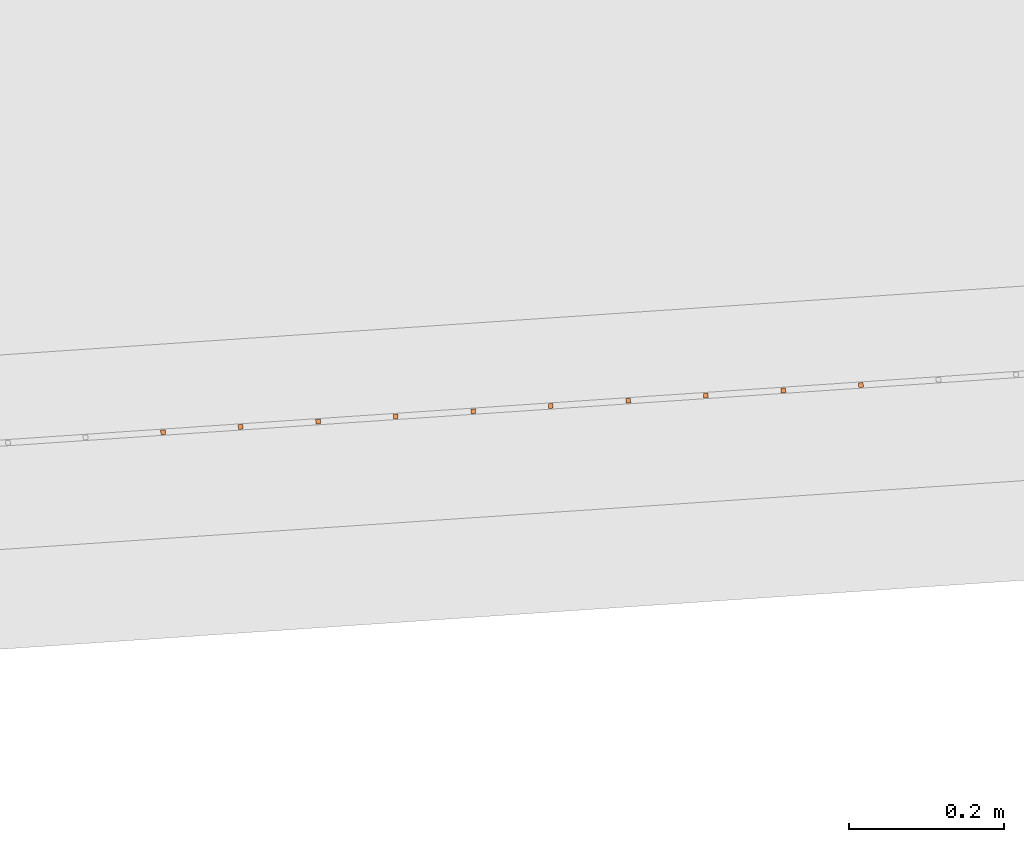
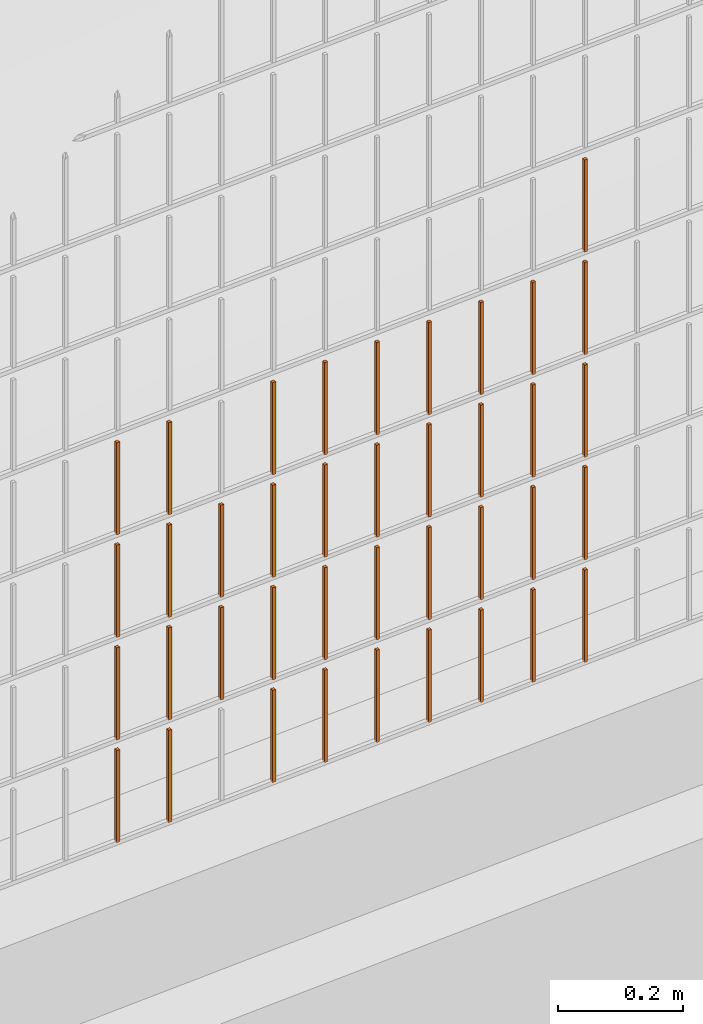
# One storey, part 157 of 1809: 39 proxies, 1 element without a shape of its own.
"""IFC2X3 building model written with IfcOpenShell, lengths in millimetres."""

import ifcopenshell
import ifcopenshell.guid

model = None  # the IFC model being written
_history = None  # IfcOwnerHistory: only IFC2X3 demands one
_inside = {}  # id of a spatial element -> (the spatial element, [elements in it])
_under = {}  # id of a project, library or spatial element -> (it, [spatial elements below it])
_declared = {}  # id of a project -> (the project, [libraries it declares])
_typed = {}  # id of a type object -> (the type object, [elements of that type])
_made_of = {}  # id of a material, layer set ... -> (it, [elements and type objects made of it])


def new_model(schema):
    """Start an empty IFC model of exactly this schema.

    Asked for "IFC4X3", IfcOpenShell would pick the latest addendum, in which some entities
    have other attributes; the version numbers below select the first issue.
    IFC2X3 requires an IfcOwnerHistory on every rooted entity: one is made here for all.
    """
    global model, _history
    if schema == "IFC4X3":
        model = ifcopenshell.file(schema_version=(4, 3, 0, 0))
    else:
        model = ifcopenshell.file(schema=schema)
    _inside.clear()
    _under.clear()
    _declared.clear()
    _typed.clear()
    _made_of.clear()
    _history = None
    if model.schema == "IFC2X3":
        org = make("IfcOrganization", Name="unknown")
        user = make(
            "IfcPersonAndOrganization",
            ThePerson=make("IfcPerson", FamilyName="unknown"),
            TheOrganization=org,
        )
        app = make(
            "IfcApplication",
            ApplicationDeveloper=org,
            Version="unknown",
            ApplicationFullName="unknown",
            ApplicationIdentifier="unknown",
        )
        _history = make(
            "IfcOwnerHistory",
            OwningUser=user,
            OwningApplication=app,
            ChangeAction="ADDED",
            CreationDate=0,
        )
    return model


def make(cls, **values):
    """One entity of the class cls with the attributes given. An attribute that is None is left unset."""
    return model.create_entity(
        cls, **{name: value for name, value in values.items() if value is not None}
    )


def entity(cls, *values):
    """Any entity or typed value of the class cls, its attributes in the order of the schema. None: left unset."""
    e = model.create_entity(cls)
    for i, value in enumerate(values):
        if value is not None:
            e[i] = value
    return e


def rooted(cls, **values):
    """An entity with a GlobalId (a new one), such as an element, a storey or a relation."""
    return make(cls, GlobalId=ifcopenshell.guid.new(), OwnerHistory=_history, **values)


def si_unit(unit_type, name, prefix=None):
    """IfcSIUnit, for example si_unit("LENGTHUNIT", "METRE", prefix="MILLI")."""
    return make("IfcSIUnit", UnitType=unit_type, Prefix=prefix, Name=name)


def converted_unit(unit_type, name, factor, base, dimensions=None, offset=None):
    """IfcConversionBasedUnit, such as the inch: factor (a typed value) times the base unit."""
    return make(
        "IfcConversionBasedUnit"
        if offset is None
        else "IfcConversionBasedUnitWithOffset",
        ConversionOffset=offset,
        Dimensions=None
        if dimensions is None
        else entity("IfcDimensionalExponents", *dimensions),
        UnitType=unit_type,
        Name=name,
        ConversionFactor=make(
            "IfcMeasureWithUnit", ValueComponent=factor, UnitComponent=base
        ),
    )


def derived_unit(unit_type, elements):
    """IfcDerivedUnit: a product of units, each with its exponent."""
    return make(
        "IfcDerivedUnit",
        Elements=[
            make("IfcDerivedUnitElement", Unit=unit, Exponent=power)
            for unit, power in elements
        ],
        UnitType=unit_type,
    )


def money_unit(currency):
    """IfcMonetaryUnit."""
    return make("IfcMonetaryUnit", Currency=currency)


def assignment(units):
    """IfcUnitAssignment: the units of a project."""
    return None if units is None else make("IfcUnitAssignment", Units=units)


def point(xyz):
    """IfcCartesianPoint."""
    return None if xyz is None else make("IfcCartesianPoint", Coordinates=xyz)


def direction(xyz):
    """IfcDirection."""
    return None if xyz is None else make("IfcDirection", DirectionRatios=xyz)


def frame(location, z_axis=None, x_axis=None):
    """IfcAxis2Placement3D, a coordinate frame: its origin and axes. An axis left out is left unset."""
    return make(
        "IfcAxis2Placement3D",
        Location=point(location),
        Axis=direction(z_axis),
        RefDirection=direction(x_axis),
    )


def origin_with_axes():
    """The frame at (0, 0, 0) with the z axis (0, 0, 1) and the x axis (1, 0, 0) written out."""
    return frame((0.0, 0.0, 0.0), z_axis=(0.0, 0.0, 1.0), x_axis=(1.0, 0.0, 0.0))


def place(relative_to, where):
    """IfcLocalPlacement: puts the frame where relative to a parent placement (None: the world)."""
    return make(
        "IfcLocalPlacement", PlacementRelTo=relative_to, RelativePlacement=where
    )


def context(
    kind, dimensions, precision=None, world=None, true_north=None, identifier=None
):
    """IfcGeometricRepresentationContext, for example the 3D "Model" context."""
    return make(
        "IfcGeometricRepresentationContext",
        ContextIdentifier=identifier,
        ContextType=kind,
        CoordinateSpaceDimension=dimensions,
        Precision=precision,
        WorldCoordinateSystem=world,
        TrueNorth=true_north,
    )


def subcontext(parent, identifier, kind, view, scale=None):
    """IfcGeometricRepresentationSubContext, for example "Body" below "Model"."""
    return make(
        "IfcGeometricRepresentationSubContext",
        ContextIdentifier=identifier,
        ContextType=kind,
        ParentContext=parent,
        TargetScale=scale,
        TargetView=view,
    )


def project(units=None, contexts=None):
    """IfcProject with its units and contexts."""
    return rooted(
        "IfcProject",
        Name="project",
        RepresentationContexts=contexts,
        UnitsInContext=assignment(units),
    )


def spatial(cls, under=None, at=None, **own):
    """A site, building, storey or space (cls), placed at a placement, below another one or the project."""
    s = rooted(cls, ObjectPlacement=at, **own)
    if under is not None:
        _under.setdefault(under.id(), (under, []))[1].append(s)
    return s


def faces_of(points, faces, orient=None, outer=None):
    """IfcFace entities. A face is a list of loops; a loop is a list of indices into points, from 0.

    orient and outer hold one flag for each loop. By default every Orientation is true, the
    first loop of a face is its IfcFaceOuterBound and the others are IfcFaceBound.
    """
    made = []
    for i, loops in enumerate(faces):
        bounds = []
        for j, loop in enumerate(loops):
            is_outer = j == 0 if outer is None else outer[i][j]
            bounds.append(
                make(
                    "IfcFaceOuterBound" if is_outer else "IfcFaceBound",
                    Bound=make("IfcPolyLoop", Polygon=[points[k] for k in loop]),
                    Orientation=True if orient is None else orient[i][j],
                )
            )
        made.append(make("IfcFace", Bounds=bounds))
    return made


def faceted_brep(points, faces, orient=None, outer=None, voids=None):
    """IfcFacetedBrep: a solid bounded by flat faces; with voids (closed shells), ...WithVoids."""
    shared = [point(p) for p in points]
    hull = make("IfcClosedShell", CfsFaces=faces_of(shared, faces, orient, outer))
    if voids is None:
        return make("IfcFacetedBrep", Outer=hull)
    return make(
        "IfcFacetedBrepWithVoids",
        Outer=hull,
        Voids=[
            make(cls, CfsFaces=faces_of(shared, fs, o, b)) for cls, fs, o, b in voids
        ],
    )


def shape(context_of_items, identifier, shape_type, items):
    """IfcShapeRepresentation: the items that make up one representation, for example the "Body"."""
    return make(
        "IfcShapeRepresentation",
        ContextOfItems=context_of_items,
        RepresentationIdentifier=identifier,
        RepresentationType=shape_type,
        Items=items,
    )


def source(mapping_origin, context_of_items, identifier, shape_type, items):
    """IfcRepresentationMap: a shape defined once, which mapped items show again and again."""
    return make(
        "IfcRepresentationMap",
        MappingOrigin=mapping_origin,
        MappedRepresentation=shape(context_of_items, identifier, shape_type, items),
    )


def transform(
    local_origin,
    x_axis=None,
    y_axis=None,
    z_axis=None,
    scale=None,
    scale2=None,
    scale3=None,
    uniform=True,
):
    """IfcCartesianTransformationOperator3D, or its non-uniform kind. x_axis, y_axis, z_axis: its Axis1, 2, 3."""
    if uniform:
        return make(
            "IfcCartesianTransformationOperator3D",
            Axis1=direction(x_axis),
            Axis2=direction(y_axis),
            LocalOrigin=point(local_origin),
            Scale=scale,
            Axis3=direction(z_axis),
        )
    return make(
        "IfcCartesianTransformationOperator3DnonUniform",
        Axis1=direction(x_axis),
        Axis2=direction(y_axis),
        LocalOrigin=point(local_origin),
        Scale=scale,
        Axis3=direction(z_axis),
        Scale2=scale2,
        Scale3=scale3,
    )


def mapped(mapping_source, mapping_target):
    """IfcMappedItem: shows the shape of a source again, moved by a transform."""
    return make(
        "IfcMappedItem", MappingSource=mapping_source, MappingTarget=mapping_target
    )


def material(Name=None, Category=None):
    """IfcMaterial."""
    return make("IfcMaterial", Name=Name, Category=Category)


def made_of(thing, what):
    """Note that an element or type object is made of a material, layer set ...; save() writes the relation."""
    if what is not None:
        _made_of.setdefault(what.id(), (what, []))[1].append(thing)
    return thing


def type_object(cls, material=None, **own):
    """A type object (cls), such as IfcWallType, which elements share."""
    return made_of(rooted(cls, **own), material)


def element(
    cls,
    number,
    at=None,
    inside=None,
    cuts=None,
    type_object=None,
    material=None,
    context=None,
    identifier="Body",
    shape_type=None,
    held_by="IfcProductDefinitionShape",
    body=None,
    shapes=None,
    **own,
):
    """One element of the class cls, such as IfcWall. Its Tag is "e" and its number.

    at: its placement. inside: the storey or other place that contains it. cuts: it is an
    opening in that element (IfcRelVoidsElement). A single representation is given by context,
    identifier, shape_type and body (its items); several are given by shapes. held_by: the class
    of the entity that holds the representations. save() writes the other relations.
    """
    e = rooted(cls, Tag="e%d" % number, ObjectPlacement=at, **own)
    if body is not None:
        shapes = [shape(context, identifier, shape_type, body)]
    if shapes is not None:
        e.Representation = make(held_by, Representations=shapes)
    if inside is not None:
        _inside.setdefault(inside.id(), (inside, []))[1].append(e)
    if cuts is not None:
        rooted(
            "IfcRelVoidsElement", RelatingBuildingElement=cuts, RelatedOpeningElement=e
        )
    if type_object is not None:
        _typed.setdefault(type_object.id(), (type_object, []))[1].append(e)
    return made_of(e, material)


def aggregate(whole, parts):
    """IfcRelAggregates: a whole, such as a stair, and the parts it consists of."""
    return rooted("IfcRelAggregates", RelatingObject=whole, RelatedObjects=parts)


def save(model, path):
    """Write the relations noted so far, then the file.

    IfcRelAggregates (storeys below a building ...), IfcRelContainedInSpatialStructure (elements
    in a storey), IfcRelDefinesByType, IfcRelAssociatesMaterial and IfcRelDeclares: one each for
    every whole, place, type object, material and project.
    """
    for whole, parts in _under.values():
        aggregate(whole, parts)
    for where, things in _inside.values():
        rooted(
            "IfcRelContainedInSpatialStructure",
            RelatedElements=things,
            RelatingStructure=where,
        )
    for kind, things in _typed.values():
        rooted("IfcRelDefinesByType", RelatedObjects=things, RelatingType=kind)
    for what, things in _made_of.values():
        rooted("IfcRelAssociatesMaterial", RelatedObjects=things, RelatingMaterial=what)
    for by, libraries in _declared.values():
        rooted("IfcRelDeclares", RelatingContext=by, RelatedDefinitions=libraries)
    model.write(path)


model = new_model("IFC2X3")

# Units and contexts
model_context = context("Model", 3, precision=0.01, world=origin_with_axes(), true_north=direction((0.0, 1.0)))
body_context = subcontext(model_context, "Body", "Model", "MODEL_VIEW")
ifc_project = project(units=[si_unit("LENGTHUNIT", "METRE", prefix="MILLI"), si_unit("AREAUNIT", "SQUARE_METRE"), si_unit("VOLUMEUNIT", "CUBIC_METRE"), converted_unit("PLANEANGLEUNIT", "DEGREE", entity("IfcPlaneAngleMeasure", 0.0174532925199), si_unit("PLANEANGLEUNIT", "RADIAN"), dimensions=[0, 0, 0, 0, 0, 0, 0]), si_unit("SOLIDANGLEUNIT", "STERADIAN"), money_unit("EUR"), converted_unit("TIMEUNIT", "Year", entity("IfcTimeMeasure", 31556926.0), si_unit("TIMEUNIT", "SECOND"), dimensions=[0, 0, 1, 0, 0, 0, 0]), si_unit("MASSUNIT", "GRAM", prefix="KILO"), si_unit("THERMODYNAMICTEMPERATUREUNIT", "DEGREE_CELSIUS"), si_unit("LUMINOUSINTENSITYUNIT", "LUMEN"), si_unit("ENERGYUNIT", "JOULE", prefix="MEGA"), derived_unit("THERMALCONDUCTANCEUNIT", [(si_unit("POWERUNIT", "WATT"), 1), (si_unit("LENGTHUNIT", "METRE"), -1), (si_unit("THERMODYNAMICTEMPERATUREUNIT", "KELVIN"), -1)]), derived_unit("SPECIFICHEATCAPACITYUNIT", [(si_unit("ENERGYUNIT", "JOULE"), 1), (si_unit("MASSUNIT", "GRAM", prefix="KILO"), -1), (si_unit("THERMODYNAMICTEMPERATUREUNIT", "KELVIN"), -1)]), derived_unit("MASSDENSITYUNIT", [(si_unit("MASSUNIT", "GRAM", prefix="KILO"), 1), (si_unit("VOLUMEUNIT", "CUBIC_METRE"), -1)])], contexts=[model_context])

# Site, building, storey
site_placement = place(None, origin_with_axes())
site = spatial("IfcSite", under=ifc_project, at=site_placement, Name="Politse- ja Piirivalveameti ning Päästeameti ühishoone", CompositionType="ELEMENT")
building_placement = place(site_placement, origin_with_axes())
building = spatial("IfcBuilding", under=site, at=building_placement, Name="Politse- ja Piirivalveameti ning Päästeameti ühishoone", CompositionType="ELEMENT")
storey_placement = place(building_placement, origin_with_axes())
storey = spatial("IfcBuildingStorey", under=building, at=storey_placement, Name="Esimene korrus", CompositionType="ELEMENT", Elevation=0.0)

# Proxies
building_element_proxy_type_1 = type_object("IfcBuildingElementProxyType", Name="Railing Type", PredefinedType="NOTDEFINED")
proxy_1_placement = place(storey_placement, frame((89252.001212, -29183.4766571, 203.661247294), z_axis=(0.0, 0.0, 1.0), x_axis=(1.0, 0.0, 0.0)))
proxy_1 = element("IfcBuildingElementProxy", 1, at=proxy_1_placement, inside=storey, type_object=building_element_proxy_type_1, Name="PIIRDEAED")
ifc_material = material(Name="ET-03_Raud")
building_element_proxy_type_2 = type_object("IfcBuildingElementProxyType", Name="IfcBuildingElementProxy", PredefinedType="NOTDEFINED")
shared_shape_1 = source(origin_with_axes(), body_context, "Body", "Brep", [
    faceted_brep([(3.0, 3.0, -0.000752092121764), (-3.0, 3.0, -0.000752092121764), (-3.0, 3.0, 179.99926046), (3.0, 3.0, 179.99926046), (3.0, -3.0, 0.000752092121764), (-3.0, -3.0, 0.000752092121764), (-3.0, -3.0, 180.000764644), (3.0, -3.0, 180.000764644)], [[[0, 1, 2, 3]], [[0, 4, 5, 1]], [[1, 5, 6, 2]], [[3, 2, 6, 7]], [[4, 0, 3, 7]], [[5, 4, 7, 6]]]),
])
proxy_2_placement = place(proxy_1_placement, frame((-81141.7942031, -22778.5967419, 406.845998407), z_axis=(0.0, 0.0, 1.0), x_axis=(1.0, 0.0, 0.0)))
proxy_2 = element("IfcBuildingElementProxy", 2, at=proxy_2_placement, type_object=building_element_proxy_type_2, material=ifc_material, Name="BALUSTER - 001", context=body_context, shape_type="MappedRepresentation", body=[
    mapped(shared_shape_1, transform((0.0, 0.0, 0.0), x_axis=(-0.0673926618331, 0.997726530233, 0.0), y_axis=(-0.997726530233, -0.0673926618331, 0.0), z_axis=(0.0, 0.0, 1.0))),
])
shared_shape_2 = source(origin_with_axes(), body_context, "Body", "Brep", [
    faceted_brep([(3.0, 3.0, -0.000752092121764), (-3.0, 3.0, -0.000752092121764), (-3.0, 3.0, 179.99926046), (3.0, 3.0, 179.99926046), (3.0, -3.0, 0.000752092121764), (-3.0, -3.0, 0.000752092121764), (-3.0, -3.0, 180.000764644), (3.0, -3.0, 180.000764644)], [[[0, 1, 2, 3]], [[0, 4, 5, 1]], [[1, 5, 6, 2]], [[3, 2, 6, 7]], [[4, 0, 3, 7]], [[5, 4, 7, 6]]]),
])
proxy_3_placement = place(proxy_1_placement, frame((-81042.0215501, -22771.8574758, 206.871068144), z_axis=(0.0, 0.0, 1.0), x_axis=(1.0, 0.0, 0.0)))
proxy_3 = element("IfcBuildingElementProxy", 3, at=proxy_3_placement, type_object=building_element_proxy_type_2, material=ifc_material, Name="BALUSTER - 001", context=body_context, shape_type="MappedRepresentation", body=[
    mapped(shared_shape_2, transform((0.0, 0.0, 0.0), x_axis=(-0.0673926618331, 0.997726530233, 0.0), y_axis=(-0.997726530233, -0.0673926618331, 0.0), z_axis=(0.0, 0.0, 1.0))),
])
proxy_4_placement = place(proxy_1_placement, frame((-81141.7942031, -22778.5967419, 206.845998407), z_axis=(0.0, 0.0, 1.0), x_axis=(1.0, 0.0, 0.0)))
proxy_4 = element("IfcBuildingElementProxy", 4, at=proxy_4_placement, type_object=building_element_proxy_type_2, material=ifc_material, Name="BALUSTER - 001", context=body_context, shape_type="MappedRepresentation", body=[
    mapped(shared_shape_2, transform((0.0, 0.0, 0.0), x_axis=(-0.0673926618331, 0.997726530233, 0.0), y_axis=(-0.997726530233, -0.0673926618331, 0.0), z_axis=(0.0, 0.0, 1.0))),
])
shared_shape_3 = source(origin_with_axes(), body_context, "Body", "Brep", [
    faceted_brep([(3.0, 3.0, -0.000752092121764), (-3.0, 3.0, -0.000752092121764), (-3.0, 3.0, 179.99926046), (3.0, 3.0, 179.99926046), (3.0, -3.0, 0.000752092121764), (-3.0, -3.0, 0.000752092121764), (-3.0, -3.0, 180.000764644), (3.0, -3.0, 180.000764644)], [[[0, 1, 2, 3]], [[0, 4, 5, 1]], [[1, 5, 6, 2]], [[3, 2, 6, 7]], [[4, 0, 3, 7]], [[5, 4, 7, 6]]]),
])
proxy_5_placement = place(proxy_1_placement, frame((-80343.6129789, -22724.6826125, 407.046556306), z_axis=(0.0, 0.0, 1.0), x_axis=(1.0, 0.0, 0.0)))
proxy_5 = element("IfcBuildingElementProxy", 5, at=proxy_5_placement, type_object=building_element_proxy_type_2, material=ifc_material, Name="BALUSTER - 001", context=body_context, shape_type="MappedRepresentation", body=[
    mapped(shared_shape_3, transform((0.0, 0.0, 0.0), x_axis=(-0.0673926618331, 0.997726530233, 0.0), y_axis=(-0.997726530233, -0.0673926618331, 0.0), z_axis=(0.0, 0.0, 1.0))),
])
proxy_6_placement = place(proxy_1_placement, frame((-81042.0215501, -22771.8574758, 406.871068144), z_axis=(0.0, 0.0, 1.0), x_axis=(1.0, 0.0, 0.0)))
proxy_6 = element("IfcBuildingElementProxy", 6, at=proxy_6_placement, type_object=building_element_proxy_type_2, material=ifc_material, Name="BALUSTER - 001", context=body_context, shape_type="MappedRepresentation", body=[
    mapped(shared_shape_3, transform((0.0, 0.0, 0.0), x_axis=(-0.0673926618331, 0.997726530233, 0.0), y_axis=(-0.997726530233, -0.0673926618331, 0.0), z_axis=(0.0, 0.0, 1.0))),
])
proxy_7_placement = place(proxy_1_placement, frame((-80343.6129789, -22724.6826125, 607.046556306), z_axis=(0.0, 0.0, 1.0), x_axis=(1.0, 0.0, 0.0)))
proxy_7 = element("IfcBuildingElementProxy", 7, at=proxy_7_placement, type_object=building_element_proxy_type_2, material=ifc_material, Name="BALUSTER - 001", context=body_context, shape_type="MappedRepresentation", body=[
    mapped(shared_shape_3, transform((0.0, 0.0, 0.0), x_axis=(-0.0673926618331, 0.997726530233, 0.0), y_axis=(-0.997726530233, -0.0673926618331, 0.0), z_axis=(0.0, 0.0, 1.0))),
])
proxy_8_placement = place(proxy_1_placement, frame((-81042.0215501, -22771.8574758, 606.871068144), z_axis=(0.0, 0.0, 1.0), x_axis=(1.0, 0.0, 0.0)))
proxy_8 = element("IfcBuildingElementProxy", 8, at=proxy_8_placement, type_object=building_element_proxy_type_2, material=ifc_material, Name="BALUSTER - 001", context=body_context, shape_type="MappedRepresentation", body=[
    mapped(shared_shape_3, transform((0.0, 0.0, 0.0), x_axis=(-0.0673926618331, 0.997726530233, 0.0), y_axis=(-0.997726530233, -0.0673926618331, 0.0), z_axis=(0.0, 0.0, 1.0))),
])
proxy_9_placement = place(proxy_1_placement, frame((-81141.7942031, -22778.5967419, 606.845998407), z_axis=(0.0, 0.0, 1.0), x_axis=(1.0, 0.0, 0.0)))
proxy_9 = element("IfcBuildingElementProxy", 9, at=proxy_9_placement, type_object=building_element_proxy_type_2, material=ifc_material, Name="BALUSTER - 001", context=body_context, shape_type="MappedRepresentation", body=[
    mapped(shared_shape_3, transform((0.0, 0.0, 0.0), x_axis=(-0.0673926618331, 0.997726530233, 0.0), y_axis=(-0.997726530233, -0.0673926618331, 0.0), z_axis=(0.0, 0.0, 1.0))),
])
shared_shape_4 = source(origin_with_axes(), body_context, "Body", "Brep", [
    faceted_brep([(3.0, 3.0, -0.000752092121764), (-3.0, 3.0, -0.000752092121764), (-3.0, 3.0, 179.99926046), (3.0, 3.0, 179.99926046), (3.0, -3.0, 0.000752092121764), (-3.0, -3.0, 0.000752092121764), (-3.0, -3.0, 180.000764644), (3.0, -3.0, 180.000764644)], [[[0, 1, 2, 3]], [[0, 4, 5, 1]], [[1, 5, 6, 2]], [[3, 2, 6, 7]], [[4, 0, 3, 7]], [[5, 4, 7, 6]]]),
])
proxy_10_placement = place(proxy_1_placement, frame((-81042.0215501, -22771.8574758, 6.87106814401), z_axis=(0.0, 0.0, 1.0), x_axis=(1.0, 0.0, 0.0)))
proxy_10 = element("IfcBuildingElementProxy", 10, at=proxy_10_placement, type_object=building_element_proxy_type_2, material=ifc_material, Name="BALUSTER - 001", context=body_context, shape_type="MappedRepresentation", body=[
    mapped(shared_shape_4, transform((0.0, 0.0, 0.0), x_axis=(-0.0673926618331, 0.997726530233, 0.0), y_axis=(-0.997726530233, -0.0673926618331, 0.0), z_axis=(0.0, 0.0, 1.0))),
])
shared_shape_5 = source(origin_with_axes(), body_context, "Body", "Brep", [
    faceted_brep([(3.0, 3.0, -0.000752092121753), (-3.0, 3.0, -0.000752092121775), (-3.0, 3.0, 179.99926046), (3.0, 3.0, 179.99926046), (3.0, -3.0, 0.000752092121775), (-3.0, -3.0, 0.000752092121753), (-3.0, -3.0, 180.000764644), (3.0, -3.0, 180.000764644)], [[[0, 1, 2, 3]], [[0, 4, 5, 1]], [[1, 5, 6, 2]], [[3, 2, 6, 7]], [[4, 0, 3, 7]], [[5, 4, 7, 6]]]),
])
proxy_11_placement = place(proxy_1_placement, frame((-80243.8403259, -22717.9433463, 7.07162604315), z_axis=(0.0, 0.0, 1.0), x_axis=(1.0, 0.0, 0.0)))
proxy_11 = element("IfcBuildingElementProxy", 11, at=proxy_11_placement, type_object=building_element_proxy_type_2, material=ifc_material, Name="BALUSTER - 001", context=body_context, shape_type="MappedRepresentation", body=[
    mapped(shared_shape_5, transform((0.0, 0.0, 0.0), x_axis=(-0.0673926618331, 0.997726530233, 0.0), y_axis=(-0.997726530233, -0.0673926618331, 0.0), z_axis=(0.0, 0.0, 1.0))),
])
proxy_12_placement = place(proxy_1_placement, frame((-80543.158285, -22738.1611448, 6.99641683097), z_axis=(0.0, 0.0, 1.0), x_axis=(1.0, 0.0, 0.0)))
proxy_12 = element("IfcBuildingElementProxy", 12, at=proxy_12_placement, type_object=building_element_proxy_type_2, material=ifc_material, Name="BALUSTER - 001", context=body_context, shape_type="MappedRepresentation", body=[
    mapped(shared_shape_5, transform((0.0, 0.0, 0.0), x_axis=(-0.0673926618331, 0.997726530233, 0.0), y_axis=(-0.997726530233, -0.0673926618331, 0.0), z_axis=(0.0, 0.0, 1.0))),
])
shared_shape_6 = source(origin_with_axes(), body_context, "Body", "Brep", [
    faceted_brep([(3.0, 3.0, -0.000752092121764), (-3.0, 3.0, -0.000752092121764), (-3.0, 3.0, 179.99926046), (3.0, 3.0, 179.99926046), (3.0, -3.0, 0.000752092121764), (-3.0, -3.0, 0.000752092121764), (-3.0, -3.0, 180.000764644), (3.0, -3.0, 180.000764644)], [[[0, 1, 2, 3]], [[0, 4, 5, 1]], [[1, 5, 6, 2]], [[3, 2, 6, 7]], [[4, 0, 3, 7]], [[5, 4, 7, 6]]]),
])
proxy_13_placement = place(proxy_1_placement, frame((-80443.385632, -22731.4218787, 7.02148656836), z_axis=(0.0, 0.0, 1.0), x_axis=(1.0, 0.0, 0.0)))
proxy_13 = element("IfcBuildingElementProxy", 13, at=proxy_13_placement, type_object=building_element_proxy_type_2, material=ifc_material, Name="BALUSTER - 001", context=body_context, shape_type="MappedRepresentation", body=[
    mapped(shared_shape_6, transform((0.0, 0.0, 0.0), x_axis=(-0.0673926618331, 0.997726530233, 0.0), y_axis=(-0.997726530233, -0.0673926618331, 0.0), z_axis=(0.0, 0.0, 1.0))),
])
shared_shape_7 = source(origin_with_axes(), body_context, "Body", "Brep", [
    faceted_brep([(3.0, 3.0, -0.000752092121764), (-3.0, 3.0, -0.000752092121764), (-3.0, 3.0, 179.99926046), (3.0, 3.0, 179.99926046), (3.0, -3.0, 0.000752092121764), (-3.0, -3.0, 0.000752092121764), (-3.0, -3.0, 180.000764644), (3.0, -3.0, 180.000764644)], [[[0, 1, 2, 3]], [[0, 4, 5, 1]], [[1, 5, 6, 2]], [[3, 2, 6, 7]], [[4, 0, 3, 7]], [[5, 4, 7, 6]]]),
])
proxy_14_placement = place(proxy_1_placement, frame((-80642.930938, -22744.900411, 6.97134709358), z_axis=(0.0, 0.0, 1.0), x_axis=(1.0, 0.0, 0.0)))
proxy_14 = element("IfcBuildingElementProxy", 14, at=proxy_14_placement, type_object=building_element_proxy_type_2, material=ifc_material, Name="BALUSTER - 001", context=body_context, shape_type="MappedRepresentation", body=[
    mapped(shared_shape_7, transform((0.0, 0.0, 0.0), x_axis=(-0.0673926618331, 0.997726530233, 0.0), y_axis=(-0.997726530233, -0.0673926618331, 0.0), z_axis=(0.0, 0.0, 1.0))),
])
shared_shape_8 = source(origin_with_axes(), body_context, "Body", "Brep", [
    faceted_brep([(3.0, 3.0, -0.000752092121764), (-3.0, 3.0, -0.000752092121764), (-3.0, 3.0, 179.99926046), (3.0, 3.0, 179.99926046), (3.0, -3.0, 0.000752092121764), (-3.0, -3.0, 0.000752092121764), (-3.0, -3.0, 180.000764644), (3.0, -3.0, 180.000764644)], [[[0, 1, 2, 3]], [[0, 4, 5, 1]], [[1, 5, 6, 2]], [[3, 2, 6, 7]], [[4, 0, 3, 7]], [[5, 4, 7, 6]]]),
])
proxy_15_placement = place(proxy_1_placement, frame((-80443.385632, -22731.4218787, 407.021486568), z_axis=(0.0, 0.0, 1.0), x_axis=(1.0, 0.0, 0.0)))
proxy_15 = element("IfcBuildingElementProxy", 15, at=proxy_15_placement, type_object=building_element_proxy_type_2, material=ifc_material, Name="BALUSTER - 001", context=body_context, shape_type="MappedRepresentation", body=[
    mapped(shared_shape_8, transform((0.0, 0.0, 0.0), x_axis=(-0.0673926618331, 0.997726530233, 0.0), y_axis=(-0.997726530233, -0.0673926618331, 0.0), z_axis=(0.0, 0.0, 1.0))),
])
proxy_16_placement = place(proxy_1_placement, frame((-80642.930938, -22744.900411, 406.971347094), z_axis=(0.0, 0.0, 1.0), x_axis=(1.0, 0.0, 0.0)))
proxy_16 = element("IfcBuildingElementProxy", 16, at=proxy_16_placement, type_object=building_element_proxy_type_2, material=ifc_material, Name="BALUSTER - 001", context=body_context, shape_type="MappedRepresentation", body=[
    mapped(shared_shape_8, transform((0.0, 0.0, 0.0), x_axis=(-0.0673926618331, 0.997726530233, 0.0), y_axis=(-0.997726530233, -0.0673926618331, 0.0), z_axis=(0.0, 0.0, 1.0))),
])
proxy_17_placement = place(proxy_1_placement, frame((-80443.385632, -22731.4218787, 607.021486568), z_axis=(0.0, 0.0, 1.0), x_axis=(1.0, 0.0, 0.0)))
proxy_17 = element("IfcBuildingElementProxy", 17, at=proxy_17_placement, type_object=building_element_proxy_type_2, material=ifc_material, Name="BALUSTER - 001", context=body_context, shape_type="MappedRepresentation", body=[
    mapped(shared_shape_8, transform((0.0, 0.0, 0.0), x_axis=(-0.0673926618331, 0.997726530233, 0.0), y_axis=(-0.997726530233, -0.0673926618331, 0.0), z_axis=(0.0, 0.0, 1.0))),
])
shared_shape_9 = source(origin_with_axes(), body_context, "Body", "Brep", [
    faceted_brep([(3.0, 3.0, -0.000752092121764), (-3.0, 3.0, -0.000752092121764), (-3.0, 3.0, 179.99926046), (3.0, 3.0, 179.99926046), (3.0, -3.0, 0.000752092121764), (-3.0, -3.0, 0.000752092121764), (-3.0, -3.0, 180.000764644), (3.0, -3.0, 180.000764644)], [[[0, 1, 2, 3]], [[0, 4, 5, 1]], [[1, 5, 6, 2]], [[3, 2, 6, 7]], [[4, 0, 3, 7]], [[5, 4, 7, 6]]]),
])
proxy_18_placement = place(proxy_1_placement, frame((-80642.930938, -22744.900411, 206.971347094), z_axis=(0.0, 0.0, 1.0), x_axis=(1.0, 0.0, 0.0)))
proxy_18 = element("IfcBuildingElementProxy", 18, at=proxy_18_placement, type_object=building_element_proxy_type_2, material=ifc_material, Name="BALUSTER - 001", context=body_context, shape_type="MappedRepresentation", body=[
    mapped(shared_shape_9, transform((0.0, 0.0, 0.0), x_axis=(-0.0673926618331, 0.997726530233, 0.0), y_axis=(-0.997726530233, -0.0673926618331, 0.0), z_axis=(0.0, 0.0, 1.0))),
])
shared_shape_10 = source(origin_with_axes(), body_context, "Body", "Brep", [
    faceted_brep([(3.0, 3.0, -0.000752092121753), (-3.0, 3.0, -0.000752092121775), (-3.0, 3.0, 179.99926046), (3.0, 3.0, 179.99926046), (3.0, -3.0, 0.000752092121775), (-3.0, -3.0, 0.000752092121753), (-3.0, -3.0, 180.000764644), (3.0, -3.0, 180.000764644)], [[[0, 1, 2, 3]], [[0, 4, 5, 1]], [[1, 5, 6, 2]], [[3, 2, 6, 7]], [[4, 0, 3, 7]], [[5, 4, 7, 6]]]),
])
proxy_19_placement = place(proxy_1_placement, frame((-80543.158285, -22738.1611448, 406.996416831), z_axis=(0.0, 0.0, 1.0), x_axis=(1.0, 0.0, 0.0)))
proxy_19 = element("IfcBuildingElementProxy", 19, at=proxy_19_placement, type_object=building_element_proxy_type_2, material=ifc_material, Name="BALUSTER - 001", context=body_context, shape_type="MappedRepresentation", body=[
    mapped(shared_shape_10, transform((0.0, 0.0, 0.0), x_axis=(-0.0673926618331, 0.997726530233, 0.0), y_axis=(-0.997726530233, -0.0673926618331, 0.0), z_axis=(0.0, 0.0, 1.0))),
])
proxy_20_placement = place(proxy_1_placement, frame((-80842.4762441, -22758.3789434, 406.921207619), z_axis=(0.0, 0.0, 1.0), x_axis=(1.0, 0.0, 0.0)))
proxy_20 = element("IfcBuildingElementProxy", 20, at=proxy_20_placement, type_object=building_element_proxy_type_2, material=ifc_material, Name="BALUSTER - 001", context=body_context, shape_type="MappedRepresentation", body=[
    mapped(shared_shape_10, transform((0.0, 0.0, 0.0), x_axis=(-0.0673926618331, 0.997726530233, 0.0), y_axis=(-0.997726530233, -0.0673926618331, 0.0), z_axis=(0.0, 0.0, 1.0))),
])
proxy_21_placement = place(proxy_1_placement, frame((-80243.8403259, -22717.9433463, 607.071626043), z_axis=(0.0, 0.0, 1.0), x_axis=(1.0, 0.0, 0.0)))
proxy_21 = element("IfcBuildingElementProxy", 21, at=proxy_21_placement, type_object=building_element_proxy_type_2, material=ifc_material, Name="BALUSTER - 001", context=body_context, shape_type="MappedRepresentation", body=[
    mapped(shared_shape_10, transform((0.0, 0.0, 0.0), x_axis=(-0.0673926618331, 0.997726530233, 0.0), y_axis=(-0.997726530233, -0.0673926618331, 0.0), z_axis=(0.0, 0.0, 1.0))),
])
shared_shape_11 = source(origin_with_axes(), body_context, "Body", "Brep", [
    faceted_brep([(3.0, 3.0, -0.000752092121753), (-3.0, 3.0, -0.000752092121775), (-3.0, 3.0, 179.99926046), (3.0, 3.0, 179.99926046), (3.0, -3.0, 0.000752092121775), (-3.0, -3.0, 0.000752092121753), (-3.0, -3.0, 180.000764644), (3.0, -3.0, 180.000764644)], [[[0, 1, 2, 3]], [[0, 4, 5, 1]], [[1, 5, 6, 2]], [[3, 2, 6, 7]], [[4, 0, 3, 7]], [[5, 4, 7, 6]]]),
])
proxy_22_placement = place(proxy_1_placement, frame((-80243.8403259, -22717.9433463, 807.071626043), z_axis=(0.0, 0.0, 1.0), x_axis=(1.0, 0.0, 0.0)))
proxy_22 = element("IfcBuildingElementProxy", 22, at=proxy_22_placement, type_object=building_element_proxy_type_2, material=ifc_material, Name="BALUSTER - 001", context=body_context, shape_type="MappedRepresentation", body=[
    mapped(shared_shape_11, transform((0.0, 0.0, 0.0), x_axis=(-0.0673926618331, 0.997726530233, 0.0), y_axis=(-0.997726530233, -0.0673926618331, 0.0), z_axis=(0.0, 0.0, 1.0))),
])
shared_shape_12 = source(origin_with_axes(), body_context, "Body", "Brep", [
    faceted_brep([(3.0, 3.0, -0.000752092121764), (-3.0, 3.0, -0.000752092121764), (-3.0, 3.0, 179.99926046), (3.0, 3.0, 179.99926046), (3.0, -3.0, 0.000752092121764), (-3.0, -3.0, 0.000752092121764), (-3.0, -3.0, 180.000764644), (3.0, -3.0, 180.000764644)], [[[0, 1, 2, 3]], [[0, 4, 5, 1]], [[1, 5, 6, 2]], [[3, 2, 6, 7]], [[4, 0, 3, 7]], [[5, 4, 7, 6]]]),
])
proxy_23_placement = place(proxy_1_placement, frame((-80642.930938, -22744.900411, 606.971347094), z_axis=(0.0, 0.0, 1.0), x_axis=(1.0, 0.0, 0.0)))
proxy_23 = element("IfcBuildingElementProxy", 23, at=proxy_23_placement, type_object=building_element_proxy_type_2, material=ifc_material, Name="BALUSTER - 001", context=body_context, shape_type="MappedRepresentation", body=[
    mapped(shared_shape_12, transform((0.0, 0.0, 0.0), x_axis=(-0.0673926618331, 0.997726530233, 0.0), y_axis=(-0.997726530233, -0.0673926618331, 0.0), z_axis=(0.0, 0.0, 1.0))),
])
shared_shape_13 = source(origin_with_axes(), body_context, "Body", "Brep", [
    faceted_brep([(3.0, 3.0, -0.000752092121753), (-3.0, 3.0, -0.000752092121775), (-3.0, 3.0, 179.99926046), (3.0, 3.0, 179.99926046), (3.0, -3.0, 0.000752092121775), (-3.0, -3.0, 0.000752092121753), (-3.0, -3.0, 180.000764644), (3.0, -3.0, 180.000764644)], [[[0, 1, 2, 3]], [[0, 4, 5, 1]], [[1, 5, 6, 2]], [[3, 2, 6, 7]], [[4, 0, 3, 7]], [[5, 4, 7, 6]]]),
])
proxy_24_placement = place(proxy_1_placement, frame((-80842.4762441, -22758.3789434, 6.92120761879), z_axis=(0.0, 0.0, 1.0), x_axis=(1.0, 0.0, 0.0)))
proxy_24 = element("IfcBuildingElementProxy", 24, at=proxy_24_placement, type_object=building_element_proxy_type_2, material=ifc_material, Name="BALUSTER - 001", context=body_context, shape_type="MappedRepresentation", body=[
    mapped(shared_shape_13, transform((0.0, 0.0, 0.0), x_axis=(-0.0673926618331, 0.997726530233, 0.0), y_axis=(-0.997726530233, -0.0673926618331, 0.0), z_axis=(0.0, 0.0, 1.0))),
])
shared_shape_14 = source(origin_with_axes(), body_context, "Body", "Brep", [
    faceted_brep([(3.0, 3.0, -0.000752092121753), (-3.0, 3.0, -0.000752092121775), (-3.0, 3.0, 179.99926046), (3.0, 3.0, 179.99926046), (3.0, -3.0, 0.000752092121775), (-3.0, -3.0, 0.000752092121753), (-3.0, -3.0, 180.000764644), (3.0, -3.0, 180.000764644)], [[[0, 1, 2, 3]], [[0, 4, 5, 1]], [[1, 5, 6, 2]], [[3, 2, 6, 7]], [[4, 0, 3, 7]], [[5, 4, 7, 6]]]),
])
proxy_25_placement = place(proxy_1_placement, frame((-80243.8403259, -22717.9433463, 207.071626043), z_axis=(0.0, 0.0, 1.0), x_axis=(1.0, 0.0, 0.0)))
proxy_25 = element("IfcBuildingElementProxy", 25, at=proxy_25_placement, type_object=building_element_proxy_type_2, material=ifc_material, Name="BALUSTER - 001", context=body_context, shape_type="MappedRepresentation", body=[
    mapped(shared_shape_14, transform((0.0, 0.0, 0.0), x_axis=(-0.0673926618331, 0.997726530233, 0.0), y_axis=(-0.997726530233, -0.0673926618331, 0.0), z_axis=(0.0, 0.0, 1.0))),
])
proxy_26_placement = place(proxy_1_placement, frame((-80842.4762441, -22758.3789434, 206.921207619), z_axis=(0.0, 0.0, 1.0), x_axis=(1.0, 0.0, 0.0)))
proxy_26 = element("IfcBuildingElementProxy", 26, at=proxy_26_placement, type_object=building_element_proxy_type_2, material=ifc_material, Name="BALUSTER - 001", context=body_context, shape_type="MappedRepresentation", body=[
    mapped(shared_shape_14, transform((0.0, 0.0, 0.0), x_axis=(-0.0673926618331, 0.997726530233, 0.0), y_axis=(-0.997726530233, -0.0673926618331, 0.0), z_axis=(0.0, 0.0, 1.0))),
])
proxy_27_placement = place(proxy_1_placement, frame((-80243.8403259, -22717.9433463, 407.071626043), z_axis=(0.0, 0.0, 1.0), x_axis=(1.0, 0.0, 0.0)))
proxy_27 = element("IfcBuildingElementProxy", 27, at=proxy_27_placement, type_object=building_element_proxy_type_2, material=ifc_material, Name="BALUSTER - 001", context=body_context, shape_type="MappedRepresentation", body=[
    mapped(shared_shape_14, transform((0.0, 0.0, 0.0), x_axis=(-0.0673926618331, 0.997726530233, 0.0), y_axis=(-0.997726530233, -0.0673926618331, 0.0), z_axis=(0.0, 0.0, 1.0))),
])
proxy_28_placement = place(proxy_1_placement, frame((-80543.158285, -22738.1611448, 606.996416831), z_axis=(0.0, 0.0, 1.0), x_axis=(1.0, 0.0, 0.0)))
proxy_28 = element("IfcBuildingElementProxy", 28, at=proxy_28_placement, type_object=building_element_proxy_type_2, material=ifc_material, Name="BALUSTER - 001", context=body_context, shape_type="MappedRepresentation", body=[
    mapped(shared_shape_14, transform((0.0, 0.0, 0.0), x_axis=(-0.0673926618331, 0.997726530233, 0.0), y_axis=(-0.997726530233, -0.0673926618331, 0.0), z_axis=(0.0, 0.0, 1.0))),
])
proxy_29_placement = place(proxy_1_placement, frame((-80842.4762441, -22758.3789434, 606.921207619), z_axis=(0.0, 0.0, 1.0), x_axis=(1.0, 0.0, 0.0)))
proxy_29 = element("IfcBuildingElementProxy", 29, at=proxy_29_placement, type_object=building_element_proxy_type_2, material=ifc_material, Name="BALUSTER - 001", context=body_context, shape_type="MappedRepresentation", body=[
    mapped(shared_shape_14, transform((0.0, 0.0, 0.0), x_axis=(-0.0673926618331, 0.997726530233, 0.0), y_axis=(-0.997726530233, -0.0673926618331, 0.0), z_axis=(0.0, 0.0, 1.0))),
])
shared_shape_15 = source(origin_with_axes(), body_context, "Body", "Brep", [
    faceted_brep([(3.0, 3.0, -0.000752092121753), (-3.0, 3.0, -0.000752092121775), (-3.0, 3.0, 179.99926046), (3.0, 3.0, 179.99926046), (3.0, -3.0, 0.000752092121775), (-3.0, -3.0, 0.000752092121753), (-3.0, -3.0, 180.000764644), (3.0, -3.0, 180.000764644)], [[[0, 1, 2, 3]], [[0, 4, 5, 1]], [[1, 5, 6, 2]], [[3, 2, 6, 7]], [[4, 0, 3, 7]], [[5, 4, 7, 6]]]),
])
proxy_30_placement = place(proxy_1_placement, frame((-80742.703591, -22751.6396772, 206.946277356), z_axis=(0.0, 0.0, 1.0), x_axis=(1.0, 0.0, 0.0)))
proxy_30 = element("IfcBuildingElementProxy", 30, at=proxy_30_placement, type_object=building_element_proxy_type_2, material=ifc_material, Name="BALUSTER - 001", context=body_context, shape_type="MappedRepresentation", body=[
    mapped(shared_shape_15, transform((0.0, 0.0, 0.0), x_axis=(-0.0673926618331, 0.997726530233, 0.0), y_axis=(-0.997726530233, -0.0673926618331, 0.0), z_axis=(0.0, 0.0, 1.0))),
])
proxy_31_placement = place(proxy_1_placement, frame((-80742.703591, -22751.6396772, 406.946277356), z_axis=(0.0, 0.0, 1.0), x_axis=(1.0, 0.0, 0.0)))
proxy_31 = element("IfcBuildingElementProxy", 31, at=proxy_31_placement, type_object=building_element_proxy_type_2, material=ifc_material, Name="BALUSTER - 001", context=body_context, shape_type="MappedRepresentation", body=[
    mapped(shared_shape_15, transform((0.0, 0.0, 0.0), x_axis=(-0.0673926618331, 0.997726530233, 0.0), y_axis=(-0.997726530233, -0.0673926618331, 0.0), z_axis=(0.0, 0.0, 1.0))),
])
proxy_32_placement = place(proxy_1_placement, frame((-80742.703591, -22751.6396772, 606.946277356), z_axis=(0.0, 0.0, 1.0), x_axis=(1.0, 0.0, 0.0)))
proxy_32 = element("IfcBuildingElementProxy", 32, at=proxy_32_placement, type_object=building_element_proxy_type_2, material=ifc_material, Name="BALUSTER - 001", context=body_context, shape_type="MappedRepresentation", body=[
    mapped(shared_shape_15, transform((0.0, 0.0, 0.0), x_axis=(-0.0673926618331, 0.997726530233, 0.0), y_axis=(-0.997726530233, -0.0673926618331, 0.0), z_axis=(0.0, 0.0, 1.0))),
])
shared_shape_16 = source(origin_with_axes(), body_context, "Body", "Brep", [
    faceted_brep([(3.0, 3.0, -0.000752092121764), (-3.0, 3.0, -0.000752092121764), (-3.0, 3.0, 179.99926046), (3.0, 3.0, 179.99926046), (3.0, -3.0, 0.000752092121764), (-3.0, -3.0, 0.000752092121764), (-3.0, -3.0, 180.000764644), (3.0, -3.0, 180.000764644)], [[[0, 1, 2, 3]], [[0, 4, 5, 1]], [[1, 5, 6, 2]], [[3, 2, 6, 7]], [[4, 0, 3, 7]], [[5, 4, 7, 6]]]),
])
proxy_33_placement = place(proxy_1_placement, frame((-80443.385632, -22731.4218787, 207.021486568), z_axis=(0.0, 0.0, 1.0), x_axis=(1.0, 0.0, 0.0)))
proxy_33 = element("IfcBuildingElementProxy", 33, at=proxy_33_placement, type_object=building_element_proxy_type_2, material=ifc_material, Name="BALUSTER - 001", context=body_context, shape_type="MappedRepresentation", body=[
    mapped(shared_shape_16, transform((0.0, 0.0, 0.0), x_axis=(-0.0673926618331, 0.997726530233, 0.0), y_axis=(-0.997726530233, -0.0673926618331, 0.0), z_axis=(0.0, 0.0, 1.0))),
])
shared_shape_17 = source(origin_with_axes(), body_context, "Body", "Brep", [
    faceted_brep([(3.0, 3.0, -0.000752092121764), (-3.0, 3.0, -0.000752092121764), (-3.0, 3.0, 179.99926046), (3.0, 3.0, 179.99926046), (3.0, -3.0, 0.000752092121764), (-3.0, -3.0, 0.000752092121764), (-3.0, -3.0, 180.000764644), (3.0, -3.0, 180.000764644)], [[[0, 1, 2, 3]], [[0, 4, 5, 1]], [[1, 5, 6, 2]], [[3, 2, 6, 7]], [[4, 0, 3, 7]], [[5, 4, 7, 6]]]),
])
proxy_34_placement = place(proxy_1_placement, frame((-80343.6129789, -22724.6826125, 207.046556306), z_axis=(0.0, 0.0, 1.0), x_axis=(1.0, 0.0, 0.0)))
proxy_34 = element("IfcBuildingElementProxy", 34, at=proxy_34_placement, type_object=building_element_proxy_type_2, material=ifc_material, Name="BALUSTER - 001", context=body_context, shape_type="MappedRepresentation", body=[
    mapped(shared_shape_17, transform((0.0, 0.0, 0.0), x_axis=(-0.0673926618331, 0.997726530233, 0.0), y_axis=(-0.997726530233, -0.0673926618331, 0.0), z_axis=(0.0, 0.0, 1.0))),
])
shared_shape_18 = source(origin_with_axes(), body_context, "Body", "Brep", [
    faceted_brep([(3.0, 3.0, -0.000752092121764), (-3.0, 3.0, -0.000752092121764), (-3.0, 3.0, 179.99926046), (3.0, 3.0, 179.99926046), (3.0, -3.0, 0.000752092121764), (-3.0, -3.0, 0.000752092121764), (-3.0, -3.0, 180.000764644), (3.0, -3.0, 180.000764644)], [[[0, 1, 2, 3]], [[0, 4, 5, 1]], [[1, 5, 6, 2]], [[3, 2, 6, 7]], [[4, 0, 3, 7]], [[5, 4, 7, 6]]]),
])
proxy_35_placement = place(proxy_1_placement, frame((-80343.6129789, -22724.6826125, 7.04655630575), z_axis=(0.0, 0.0, 1.0), x_axis=(1.0, 0.0, 0.0)))
proxy_35 = element("IfcBuildingElementProxy", 35, at=proxy_35_placement, type_object=building_element_proxy_type_2, material=ifc_material, Name="BALUSTER - 001", context=body_context, shape_type="MappedRepresentation", body=[
    mapped(shared_shape_18, transform((0.0, 0.0, 0.0), x_axis=(-0.0673926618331, 0.997726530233, 0.0), y_axis=(-0.997726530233, -0.0673926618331, 0.0), z_axis=(0.0, 0.0, 1.0))),
])
proxy_36_placement = place(proxy_1_placement, frame((-81141.7942031, -22778.5967419, 6.84599840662), z_axis=(0.0, 0.0, 1.0), x_axis=(1.0, 0.0, 0.0)))
proxy_36 = element("IfcBuildingElementProxy", 36, at=proxy_36_placement, type_object=building_element_proxy_type_2, material=ifc_material, Name="BALUSTER - 001", context=body_context, shape_type="MappedRepresentation", body=[
    mapped(shared_shape_18, transform((0.0, 0.0, 0.0), x_axis=(-0.0673926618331, 0.997726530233, 0.0), y_axis=(-0.997726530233, -0.0673926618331, 0.0), z_axis=(0.0, 0.0, 1.0))),
])
shared_shape_19 = source(origin_with_axes(), body_context, "Body", "Brep", [
    faceted_brep([(3.0, 3.0, -0.000752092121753), (-3.0, 3.0, -0.000752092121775), (-3.0, 3.0, 179.99926046), (3.0, 3.0, 179.99926046), (3.0, -3.0, 0.000752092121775), (-3.0, -3.0, 0.000752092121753), (-3.0, -3.0, 180.000764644), (3.0, -3.0, 180.000764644)], [[[0, 1, 2, 3]], [[0, 4, 5, 1]], [[1, 5, 6, 2]], [[3, 2, 6, 7]], [[4, 0, 3, 7]], [[5, 4, 7, 6]]]),
])
proxy_37_placement = place(proxy_1_placement, frame((-80543.158285, -22738.1611448, 206.996416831), z_axis=(0.0, 0.0, 1.0), x_axis=(1.0, 0.0, 0.0)))
proxy_37 = element("IfcBuildingElementProxy", 37, at=proxy_37_placement, type_object=building_element_proxy_type_2, material=ifc_material, Name="BALUSTER - 001", context=body_context, shape_type="MappedRepresentation", body=[
    mapped(shared_shape_19, transform((0.0, 0.0, 0.0), x_axis=(-0.0673926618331, 0.997726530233, 0.0), y_axis=(-0.997726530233, -0.0673926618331, 0.0), z_axis=(0.0, 0.0, 1.0))),
])
shared_shape_20 = source(origin_with_axes(), body_context, "Body", "Brep", [
    faceted_brep([(3.0, 3.0, -0.000752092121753), (-3.0, 3.0, -0.000752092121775), (-3.0, 3.0, 179.99926046), (3.0, 3.0, 179.99926046), (3.0, -3.0, 0.000752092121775), (-3.0, -3.0, 0.000752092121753), (-3.0, -3.0, 180.000764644), (3.0, -3.0, 180.000764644)], [[[0, 1, 2, 3]], [[0, 4, 5, 1]], [[1, 5, 6, 2]], [[3, 2, 6, 7]], [[4, 0, 3, 7]], [[5, 4, 7, 6]]]),
])
proxy_38_placement = place(proxy_1_placement, frame((-80742.703591, -22751.6396772, 6.94627735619), z_axis=(0.0, 0.0, 1.0), x_axis=(1.0, 0.0, 0.0)))
proxy_38 = element("IfcBuildingElementProxy", 38, at=proxy_38_placement, type_object=building_element_proxy_type_2, material=ifc_material, Name="BALUSTER - 001", context=body_context, shape_type="MappedRepresentation", body=[
    mapped(shared_shape_20, transform((0.0, 0.0, 0.0), x_axis=(-0.0673926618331, 0.997726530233, 0.0), y_axis=(-0.997726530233, -0.0673926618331, 0.0), z_axis=(0.0, 0.0, 1.0))),
])
shared_shape_21 = source(origin_with_axes(), body_context, "Body", "Brep", [
    faceted_brep([(3.0, 3.0, -0.000752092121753), (-3.0, 3.0, -0.000752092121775), (-3.0, 3.0, 179.99926046), (3.0, 3.0, 179.99926046), (3.0, -3.0, 0.000752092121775), (-3.0, -3.0, 0.000752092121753), (-3.0, -3.0, 180.000764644), (3.0, -3.0, 180.000764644)], [[[0, 1, 2, 3]], [[0, 4, 5, 1]], [[1, 5, 6, 2]], [[3, 2, 6, 7]], [[4, 0, 3, 7]], [[5, 4, 7, 6]]]),
])
proxy_39_placement = place(proxy_1_placement, frame((-80942.2488971, -22765.1182096, 206.896137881), z_axis=(0.0, 0.0, 1.0), x_axis=(1.0, 0.0, 0.0)))
proxy_39 = element("IfcBuildingElementProxy", 39, at=proxy_39_placement, type_object=building_element_proxy_type_2, material=ifc_material, Name="BALUSTER - 001", context=body_context, shape_type="MappedRepresentation", body=[
    mapped(shared_shape_21, transform((0.0, 0.0, 0.0), x_axis=(-0.0673926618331, 0.997726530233, 0.0), y_axis=(-0.997726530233, -0.0673926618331, 0.0), z_axis=(0.0, 0.0, 1.0))),
])
proxy_40_placement = place(proxy_1_placement, frame((-80942.2488971, -22765.1182096, 406.896137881), z_axis=(0.0, 0.0, 1.0), x_axis=(1.0, 0.0, 0.0)))
proxy_40 = element("IfcBuildingElementProxy", 40, at=proxy_40_placement, type_object=building_element_proxy_type_2, material=ifc_material, Name="BALUSTER - 001", context=body_context, shape_type="MappedRepresentation", body=[
    mapped(shared_shape_21, transform((0.0, 0.0, 0.0), x_axis=(-0.0673926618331, 0.997726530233, 0.0), y_axis=(-0.997726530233, -0.0673926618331, 0.0), z_axis=(0.0, 0.0, 1.0))),
])
aggregate(proxy_1, [proxy_11, proxy_35, proxy_13, proxy_12, proxy_14, proxy_38, proxy_24, proxy_10, proxy_36, proxy_25, proxy_34, proxy_33, proxy_37, proxy_18, proxy_30, proxy_26, proxy_39, proxy_3, proxy_4, proxy_27, proxy_5, proxy_15, proxy_19, proxy_16, proxy_31, proxy_20, proxy_40, proxy_6, proxy_2, proxy_21, proxy_7, proxy_17, proxy_28, proxy_23, proxy_32, proxy_29, proxy_8, proxy_9, proxy_22])

save(model, "model.ifc")
